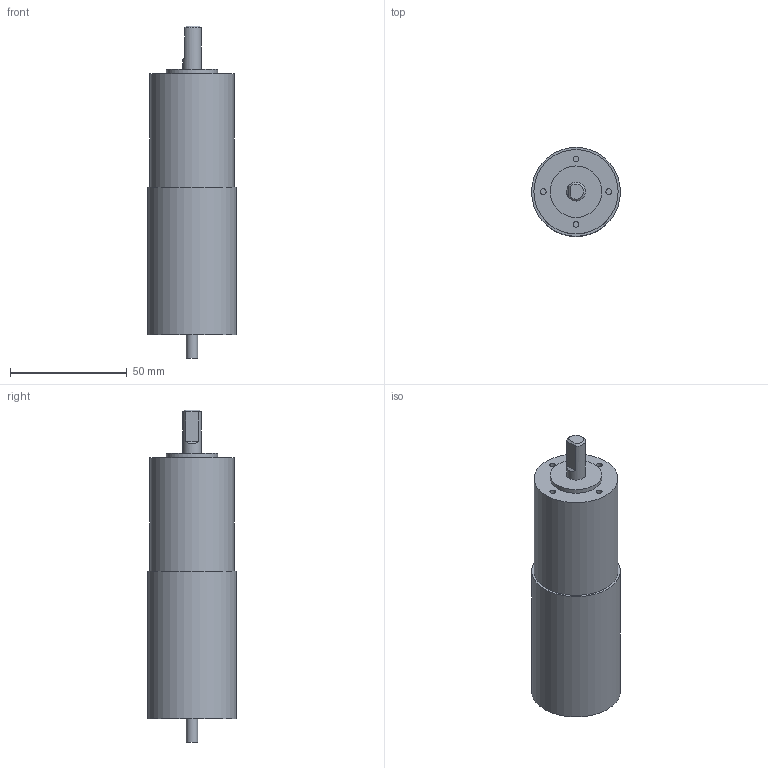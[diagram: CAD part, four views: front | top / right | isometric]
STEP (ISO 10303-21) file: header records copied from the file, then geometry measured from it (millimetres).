
FILE_DESCRIPTION(/* description */ ('Alibre Inc.'),/* implementation_level */ '2;1');
FILE_NAME(/* name */ 'export0',/* time_stamp */ '2013-08-07T14:08:51-06:00',/* author */ (''),/* organization */ (''),/* preprocessor_version */ 'ST-DEVELOPER v14',/* originating_system */ 'Alibre',/* authorisation */ '');
FILE_SCHEMA (('ALIBRE_SCHEMA','CONFIG_CONTROL_DESIGN'));
Length unit declared in the file: centimetre
Products named in the file (1): ID_1
Bounding box: 38 x 38 x 141.9 mm (x, y, z)
Volume: 122513.9 mm3; surface area: 16162 mm2
Topology: 1 solids, 1 shells, 23 faces, 37 edges, 24 vertices
Faces by surface type: plane 13, cylinder 9, cone 1
Full cylindrical faces by diameter (mm): 2.459 x4, 5 x1, 8 x1, 22 x1, 36 x1, 38 x1
Entity records: 1398 total; most frequent: CARTESIAN_POINT 164, DIRECTION 97, PERSISTANTTOPOLOGYATTRIBUTE 60, AXIS2_PLACEMENT_3D 57, ORIENTED_EDGE 54, REFERENCEDEPENDENTUV 42, EDGE_LOOP 40, FACE_BOUND 40
